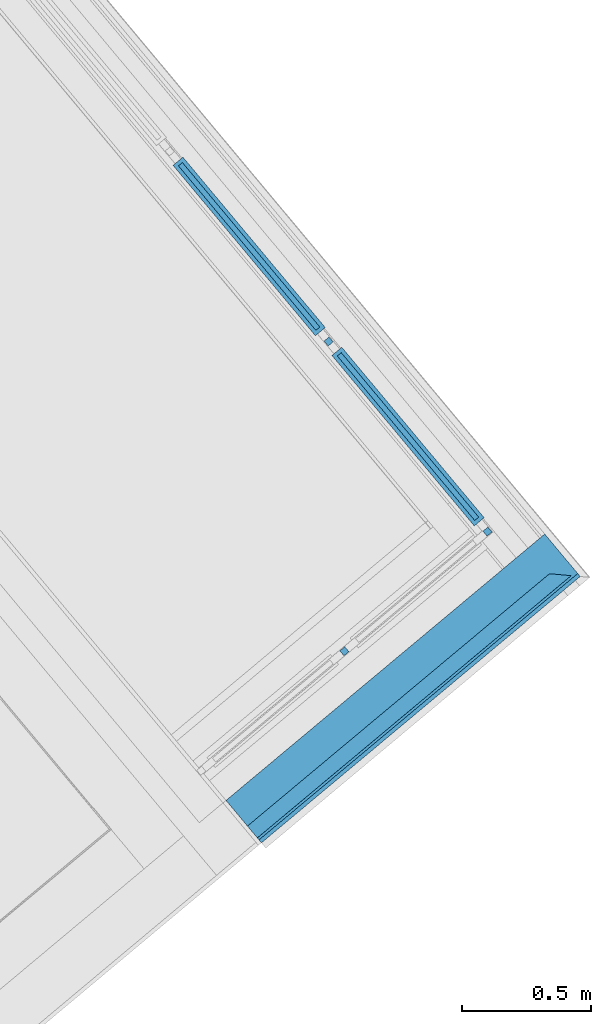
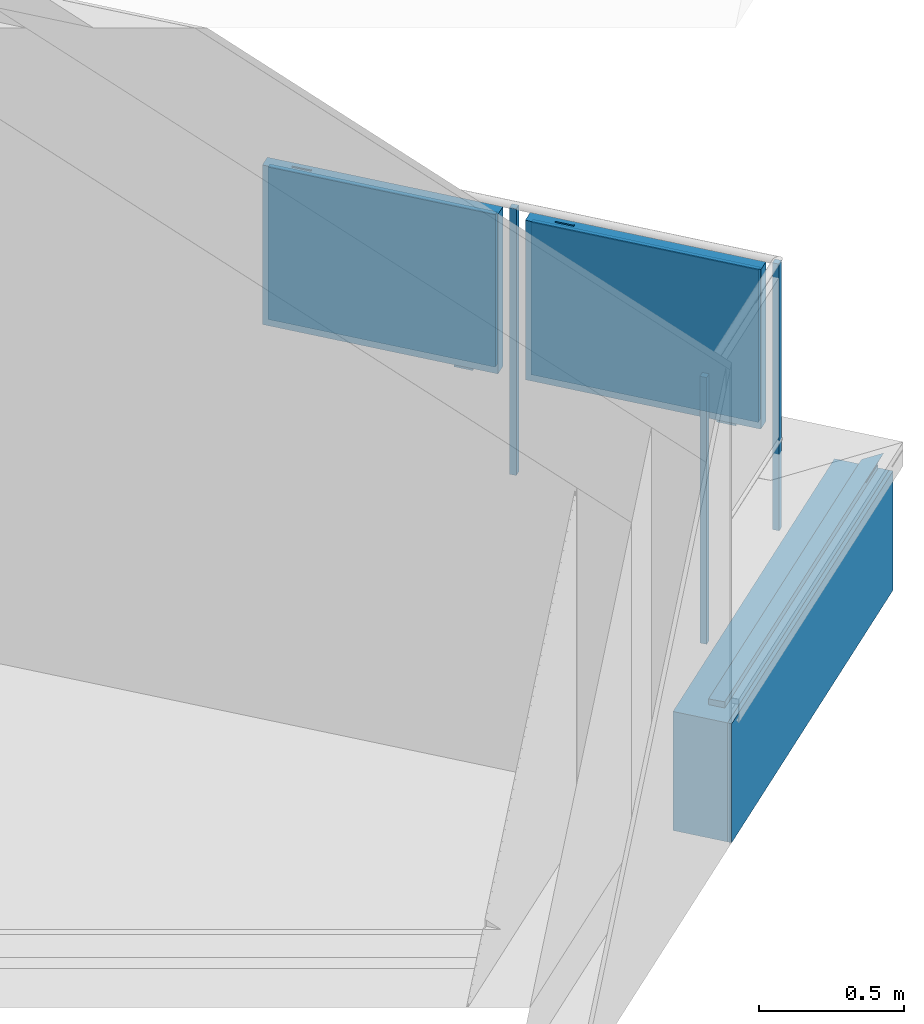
# One storey, part 31 of 53: 10 building element parts, 2 elements without a shape of their own.
"""IFC4 building model written with IfcOpenShell, lengths in metres."""

from ifc_helpers import new_model, entity, si_unit, converted_unit, derived_unit, direction, frame, origin_with_axes, place, context, subcontext, project, spatial, polygons, material, type_object, element, aggregate, save


model = new_model("IFC4")

# Units and contexts
model_context = context("Model", 3, precision=1e-05, world=origin_with_axes(), true_north=direction((0.0, 1.0)))
body_context = subcontext(model_context, "Body", "Model", "MODEL_VIEW")
ifc_project = project(units=[si_unit("LENGTHUNIT", "METRE"), si_unit("AREAUNIT", "SQUARE_METRE"), si_unit("VOLUMEUNIT", "CUBIC_METRE"), converted_unit("PLANEANGLEUNIT", "DEGREE", entity("IfcPlaneAngleMeasure", 0.0174532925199), si_unit("PLANEANGLEUNIT", "RADIAN"), dimensions=[0, 0, 0, 0, 0, 0, 0]), converted_unit("TIMEUNIT", "Year", entity("IfcTimeMeasure", 31556926.0), si_unit("TIMEUNIT", "SECOND"), dimensions=[0, 0, 1, 0, 0, 0, 0]), si_unit("MASSUNIT", "GRAM", prefix="KILO"), si_unit("THERMODYNAMICTEMPERATUREUNIT", "DEGREE_CELSIUS"), si_unit("LUMINOUSINTENSITYUNIT", "LUMEN"), si_unit("ENERGYUNIT", "JOULE", prefix="MEGA"), derived_unit("THERMALCONDUCTANCEUNIT", [(si_unit("POWERUNIT", "WATT"), 1), (si_unit("LENGTHUNIT", "METRE"), -1), (si_unit("THERMODYNAMICTEMPERATUREUNIT", "KELVIN"), -1)]), derived_unit("SPECIFICHEATCAPACITYUNIT", [(si_unit("ENERGYUNIT", "JOULE"), 1), (si_unit("MASSUNIT", "GRAM", prefix="KILO"), -1), (si_unit("THERMODYNAMICTEMPERATUREUNIT", "KELVIN"), -1)]), derived_unit("MASSDENSITYUNIT", [(si_unit("MASSUNIT", "GRAM", prefix="KILO"), 1), (si_unit("VOLUMEUNIT", "CUBIC_METRE"), -1)])], contexts=[model_context])

# Site, building, storey
site_placement = place(None, frame((-0.00153261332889, -0.00661245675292, 0.0), z_axis=(0.0, 0.0, 1.0), x_axis=(1.0, 0.0, 0.0)))
site = spatial("IfcSite", under=ifc_project, at=site_placement, Name="Gelände", CompositionType="ELEMENT")
building_placement = place(site_placement, origin_with_axes())
building = spatial("IfcBuilding", under=site, at=building_placement, Name="Gebäude", CompositionType="ELEMENT")
storey_placement = place(building_placement, frame((0.0, 0.0, 2.74), z_axis=(0.0, 0.0, 1.0), x_axis=(1.0, 0.0, 0.0)))
storey = spatial("IfcBuildingStorey", under=building, at=storey_placement, Name="OG1", CompositionType="ELEMENT", Elevation=2.74)

# Wall, building element parts
wall_type = type_object("IfcWallType", Name="Balkon Dämmung runter 574 x 610", PredefinedType="NOTDEFINED")
wall_placement = place(storey_placement, frame((14.3343917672, 21.3414540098, -0.2), z_axis=(0.0, 0.0, 1.0), x_axis=(-0.76736545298, -0.64120999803, 0.0)))
wall = element("IfcWall", 1, at=wall_placement, inside=storey, type_object=wall_type, Name="Wand-004", PredefinedType="NOTDEFINED")
ifc_material_1 = material(Name="Zementputz")
building_element_part_1_placement = place(wall_placement, origin_with_axes())
building_element_part_1 = element("IfcBuildingElementPart", 2, at=building_element_part_1_placement, material=ifc_material_1, Name="Zementputz", PredefinedType="NOTDEFINED", context=body_context, shape_type="Tessellation", body=[
    polygons([(-0.21499890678, 0.214999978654, 0.0), (-0.21499890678, 0.214999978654, 0.500000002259), (1.40011965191, 0.214999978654, 0.500000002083), (1.40011965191, 0.214999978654, 0.0), (-0.214998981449, 0.19999996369, 0.0), (-0.214998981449, 0.19999996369, 0.500000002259), (1.40011965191, 0.19999996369, 0.499999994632), (1.40011965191, 0.19999996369, 0.0)], [[[1, 2, 3, 4]], [[2, 1, 5, 6]], [[2, 6, 7, 3]], [[4, 3, 7, 8]], [[5, 1, 4, 8]], [[6, 5, 8, 7]]], closed=True),
])
ifc_material_2 = material(Name="Vollholz")
building_element_part_2_placement = place(wall_placement, origin_with_axes())
building_element_part_2 = element("IfcBuildingElementPart", 3, at=building_element_part_2_placement, material=ifc_material_2, Name="Vollholz", PredefinedType="NOTDEFINED", context=body_context, shape_type="Tessellation", body=[
    polygons([(-0.130124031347, 0.189996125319, 0.584015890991), (-0.189983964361, 0.189984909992, 0.586106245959), (1.40011965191, 0.189984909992, 0.586106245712), (1.40011965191, 0.190124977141, 0.560000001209), (-0.130124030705, 0.190124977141, 0.560000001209), (-0.130124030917, 0.19008233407, 0.567947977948), (-0.130124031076, 0.190050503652, 0.573880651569), (-0.130124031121, 0.190041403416, 0.575576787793), (-0.130124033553, 0.190039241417, 0.575979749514), (-0.070141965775, 0.190039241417, 0.575979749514), (-0.0100531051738, 0.190039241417, 0.575979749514), (-0.0100317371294, 0.190018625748, 0.579822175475), (-0.0701419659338, 0.190007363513, 0.581921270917), (-0.130124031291, 0.190007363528, 0.581921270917), (-0.130124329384, 0.130124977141, 0.584015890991), (1.40011965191, 0.130124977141, 0.584015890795), (1.40011965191, 0.130124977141, 0.560000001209), (-0.130124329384, 0.130124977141, 0.560000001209), (-0.130124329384, 0.130124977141, 0.567947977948), (-0.130124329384, 0.130124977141, 0.573880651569), (-0.130124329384, 0.130124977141, 0.575576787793), (-0.130124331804, 0.130124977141, 0.575979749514), (-0.0701422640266, 0.130124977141, 0.575979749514), (-0.0100534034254, 0.130124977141, 0.575979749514), (-0.0100320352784, 0.130124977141, 0.579822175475), (-0.0701422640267, 0.130124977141, 0.581921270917), (-0.130124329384, 0.130124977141, 0.581921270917)], [[[1, 2, 3, 4, 5, 6, 7, 8, 9, 10, 11, 12, 13, 14]], [[15, 2, 1]], [[2, 15, 16, 3]], [[3, 16, 17, 4]], [[17, 18, 5, 4]], [[5, 18, 19, 6]], [[7, 6, 19, 20]], [[21, 8, 7, 20]], [[22, 9, 8, 21]], [[10, 9, 22, 23]], [[10, 23, 24, 11]], [[11, 24, 25, 12]], [[12, 25, 26, 13]], [[14, 13, 26, 27]], [[15, 1, 14, 27]], [[18, 17, 16, 15, 27, 26, 25, 24, 23, 22, 21, 20, 19]]], closed=True),
])
ifc_material_3 = material(Name="EPS 1")
building_element_part_3_placement = place(wall_placement, origin_with_axes())
building_element_part_3 = element("IfcBuildingElementPart", 4, at=building_element_part_3_placement, material=ifc_material_3, Name="EPS 1", PredefinedType="NOTDEFINED", context=body_context, shape_type="Tessellation", body=[
    polygons([(-0.214998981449, 0.19999996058, 0.0), (-0.214998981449, 0.19999996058, 0.500000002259), (1.40011965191, 0.19999996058, 0.499999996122), (1.40011965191, 0.19999996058, 0.0), (-0.214999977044, 2.90217450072e-09, 0.0), (-0.214999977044, 2.73518807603e-09, 0.200000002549), (-0.214999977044, 2.90217627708e-09, 0.500000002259), (1.40011965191, 2.90217450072e-09, 0.500000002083), (1.40011965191, 2.90217450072e-09, 0.0), (1.40011965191, 2.73518807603e-09, 0.200000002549)], [[[1, 2, 3, 4]], [[2, 1, 5, 6, 7]], [[2, 7, 8, 3]], [[9, 4, 3, 8, 10]], [[5, 1, 4, 9]], [[6, 5, 9, 10]], [[7, 6, 10, 8]]], closed=True),
])
aggregate(wall, [building_element_part_1, building_element_part_2, building_element_part_3])

# Space
space_placement = place(storey_placement, frame((9.48027034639, 24.9670510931, 0.22), z_axis=(0.0, 0.0, 1.0), x_axis=(0.641209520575, -0.76736585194, 0.0)))
space = spatial("IfcSpace", under=storey, at=space_placement, CompositionType="ELEMENT", PredefinedType="NOTDEFINED")

# Railing, building element parts
railing_type = type_object("IfcRailingType", Name="Geländerart", PredefinedType="NOTDEFINED")
railing_placement = place(space_placement, frame((5.69466912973, 0.0, 0.16), z_axis=(0.0, 0.0, 1.0), x_axis=(0.641209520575, 0.76736585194, 0.0)))
railing = element("IfcRailing", 5, at=railing_placement, inside=space, type_object=railing_type, Name="Geländer - 001", PredefinedType="NOTDEFINED")
ifc_material_4 = material(Name="Aluminium")
building_element_part_4_placement = place(railing_placement, origin_with_axes())
building_element_part_4 = element("IfcBuildingElementPart", 6, at=building_element_part_4_placement, material=ifc_material_4, Name="Aluminium", PredefinedType="NOTDEFINED", context=body_context, shape_type="Tessellation", body=[
    polygons([(1.16243985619, 0.889886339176, -0.3), (1.14640960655, 0.909070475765, -0.3), (1.14640960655, 0.909070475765, 0.82), (1.16243985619, 0.889886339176, 0.82), (1.1432557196, 0.873856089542, -0.3), (1.12722546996, 0.893040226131, -0.3), (1.12722546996, 0.893040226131, 0.82), (1.1432557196, 0.873856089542, 0.82)], [[[1, 2, 3, 4]], [[1, 5, 6, 2]], [[2, 6, 7, 3]], [[4, 3, 7, 8]], [[5, 1, 4, 8]], [[6, 5, 8, 7]]], closed=True),
])
building_element_part_5_placement = place(railing_placement, origin_with_axes())
building_element_part_5 = element("IfcBuildingElementPart", 7, at=building_element_part_5_placement, material=ifc_material_4, Name="Aluminium", PredefinedType="NOTDEFINED", context=body_context, shape_type="Tessellation", body=[
    polygons([(0.606053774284, 0.42497056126, -0.3), (0.59002352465, 0.444154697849, -0.3), (0.59002352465, 0.444154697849, 0.82), (0.606053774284, 0.42497056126, 0.82), (0.586869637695, 0.408940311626, -0.3), (0.570839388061, 0.428124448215, -0.3), (0.570839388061, 0.428124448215, 0.82), (0.586869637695, 0.408940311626, 0.82)], [[[1, 2, 3, 4]], [[1, 5, 6, 2]], [[2, 6, 7, 3]], [[4, 3, 7, 8]], [[5, 1, 4, 8]], [[6, 5, 8, 7]]], closed=True),
])
ifc_material_5 = material(Name="Profilit")
building_element_part_6_placement = place(railing_placement, origin_with_axes())
building_element_part_6 = element("IfcBuildingElementPart", 8, at=building_element_part_6_placement, material=ifc_material_5, Name="Profilit", PredefinedType="NOTDEFINED", context=body_context, shape_type="Tessellation", body=[
    polygons([(0.561177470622, 1.57436173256, 0.135), (1.09548057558, 0.934930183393, 0.135), (1.09548057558, 0.934930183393, 0.775), (0.561177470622, 1.57436173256, 0.775), (1.11082794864, 0.947754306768, 0.135), (0.576524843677, 1.58718585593, 0.135), (1.11082794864, 0.947754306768, 0.775), (0.576524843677, 1.58718585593, 0.775)], [[[1, 2, 3, 4]], [[5, 2, 1, 6]], [[7, 3, 2, 5]], [[4, 3, 7, 8]], [[1, 4, 8, 6]], [[7, 5, 6, 8]]], closed=True),
])
building_element_part_7_placement = place(railing_placement, origin_with_axes())
building_element_part_7 = element("IfcBuildingElementPart", 9, at=building_element_part_7_placement, material=ifc_material_4, Name="Aluminium", PredefinedType="NOTDEFINED", context=body_context, shape_type="Tessellation", body=[
    polygons([(1.04673331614, 1.00496556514, 0.12), (1.00184888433, 1.05868137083, 0.12), (1.00184888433, 1.05868137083, 0.095), (1.04673331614, 1.00496556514, 0.095), (1.0505701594, 1.00817159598, 0.12), (1.00568572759, 1.06188740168, 0.12), (1.00568572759, 1.06188740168, 0.095), (1.0505701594, 1.00817159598, 0.095)], [[[1, 2, 3, 4]], [[5, 6, 2, 1]], [[2, 6, 7, 3]], [[4, 3, 7, 8]], [[1, 4, 8, 5]], [[8, 7, 6, 5]]], closed=True),
    polygons([(0.621435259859, 1.51394444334, 0.79), (0.66631969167, 1.46022863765, 0.79), (0.66631969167, 1.46022863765, 0.795), (0.621435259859, 1.51394444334, 0.795), (0.625272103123, 1.51715047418, 0.79), (0.670156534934, 1.46343466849, 0.79), (0.670156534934, 1.46343466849, 0.795), (0.625272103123, 1.51715047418, 0.795)], [[[1, 2, 3, 4]], [[5, 6, 2, 1]], [[2, 6, 7, 3]], [[4, 3, 7, 8]], [[1, 4, 8, 5]], [[8, 7, 6, 5]]], closed=True),
    polygons([(1.13195657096, 0.945861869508, 0.12), (1.09358813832, 0.913801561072, 0.12), (0.5400488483, 1.57625416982, 0.12), (0.578417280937, 1.60831447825, 0.12), (1.11913244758, 0.961209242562, 0.14), (1.10762191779, 0.951591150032, 0.14), (1.11082794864, 0.947754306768, 0.135), (1.09548057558, 0.934930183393, 0.135), (1.09227454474, 0.938767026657, 0.14), (1.08076401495, 0.929148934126, 0.14), (0.552872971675, 1.56090679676, 0.14), (0.552872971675, 1.56090679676, 0.77), (1.08076401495, 0.929148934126, 0.77), (1.08076401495, 0.929148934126, 0.14), (1.09358813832, 0.913801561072, 0.12), (1.09358813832, 0.913801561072, 0.79), (0.5400488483, 1.57625416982, 0.79), (0.578417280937, 1.60831447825, 0.79), (1.13195657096, 0.945861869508, 0.79), (1.13195657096, 0.945861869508, 0.12), (1.11913244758, 0.961209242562, 0.14), (1.11913244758, 0.961209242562, 0.77), (0.591241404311, 1.5929671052, 0.77), (0.591241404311, 1.5929671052, 0.14), (0.57973087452, 1.58334901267, 0.14), (0.57973087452, 1.58334901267, 0.77), (1.10762191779, 0.951591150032, 0.77), (1.10762191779, 0.951591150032, 0.14), (1.11082794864, 0.947754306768, 0.135), (1.11082794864, 0.947754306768, 0.775), (0.576524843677, 1.58718585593, 0.775), (0.576524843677, 1.58718585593, 0.135), (0.561177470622, 1.57436173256, 0.135), (0.561177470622, 1.57436173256, 0.775), (1.09548057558, 0.934930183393, 0.775), (1.09548057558, 0.934930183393, 0.135), (1.09227454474, 0.938767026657, 0.14), (1.09227454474, 0.938767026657, 0.77), (0.564383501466, 1.57052488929, 0.77), (0.564383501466, 1.57052488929, 0.14)], [[[1, 2, 3, 4]], [[1, 5, 6, 7, 8, 9, 10, 2]], [[2, 10, 11, 12, 13, 14, 15, 16, 17, 3]], [[4, 3, 17, 18]], [[5, 1, 4, 18, 19, 20, 21, 22, 23, 24]], [[6, 5, 24, 25]], [[7, 6, 25, 26, 27, 28, 29, 30, 31, 32]], [[8, 7, 32, 33]], [[9, 8, 33, 34, 35, 36, 37, 38, 39, 40]], [[10, 9, 40, 11]], [[11, 40, 39, 12]], [[12, 39, 38, 13]], [[13, 38, 37, 14]], [[20, 15, 14, 37, 36, 29, 28, 21]], [[19, 16, 15, 20]], [[18, 17, 16, 19]], [[27, 22, 21, 28]], [[26, 23, 22, 27]], [[25, 24, 23, 26]], [[35, 30, 29, 36]], [[34, 31, 30, 35]], [[33, 32, 31, 34]]], closed=True),
])
building_element_part_8_placement = place(railing_placement, origin_with_axes())
building_element_part_8 = element("IfcBuildingElementPart", 10, at=building_element_part_8_placement, material=ifc_material_4, Name="Aluminium", PredefinedType="NOTDEFINED", context=body_context, shape_type="Tessellation", body=[
    polygons([(0.528749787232, 1.64825994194, -0.3), (0.509565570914, 1.63222978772, -0.3), (0.509565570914, 1.63222978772, 0.82), (0.528749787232, 1.64825994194, 0.82), (0.544779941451, 1.62907572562, -0.3), (0.525595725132, 1.6130455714, -0.3), (0.525595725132, 1.6130455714, 0.82), (0.544779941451, 1.62907572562, 0.82)], [[[1, 2, 3, 4]], [[1, 5, 6, 2]], [[2, 6, 7, 3]], [[4, 3, 7, 8]], [[5, 1, 4, 8]], [[6, 5, 8, 7]]], closed=True),
])
building_element_part_9_placement = place(railing_placement, origin_with_axes())
building_element_part_9 = element("IfcBuildingElementPart", 11, at=building_element_part_9_placement, material=ifc_material_5, Name="Profilit", PredefinedType="NOTDEFINED", context=body_context, shape_type="Tessellation", body=[
    polygons([(-0.0564824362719, 2.31355120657, 0.135), (0.477820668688, 1.67411965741, 0.135), (0.477820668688, 1.67411965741, 0.775), (-0.0564824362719, 2.31355120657, 0.775), (0.493168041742, 1.68694378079, 0.135), (-0.0411350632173, 2.32637532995, 0.135), (0.493168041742, 1.68694378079, 0.775), (-0.0411350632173, 2.32637532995, 0.775)], [[[1, 2, 3, 4]], [[5, 2, 1, 6]], [[7, 3, 2, 5]], [[4, 3, 7, 8]], [[1, 4, 8, 6]], [[7, 5, 6, 8]]], closed=True),
])
building_element_part_10_placement = place(railing_placement, origin_with_axes())
building_element_part_10 = element("IfcBuildingElementPart", 12, at=building_element_part_10_placement, material=ifc_material_4, Name="Aluminium", PredefinedType="NOTDEFINED", context=body_context, shape_type="Tessellation", body=[
    polygons([(0.429073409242, 1.74415503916, 0.12), (0.384188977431, 1.79787084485, 0.12), (0.384188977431, 1.79787084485, 0.095), (0.429073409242, 1.74415503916, 0.095), (0.432910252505, 1.74736107, 0.12), (0.388025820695, 1.80107687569, 0.12), (0.388025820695, 1.80107687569, 0.095), (0.432910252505, 1.74736107, 0.095)], [[[1, 2, 3, 4]], [[5, 6, 2, 1]], [[2, 6, 7, 3]], [[4, 3, 7, 8]], [[1, 4, 8, 5]], [[8, 7, 6, 5]]], closed=True),
    polygons([(0.00377535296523, 2.25313391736, 0.79), (0.048659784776, 2.19941811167, 0.79), (0.048659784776, 2.19941811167, 0.795), (0.00377535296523, 2.25313391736, 0.795), (0.00761219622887, 2.2563399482, 0.79), (0.0524966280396, 2.20262414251, 0.79), (0.0524966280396, 2.20262414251, 0.795), (0.00761219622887, 2.2563399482, 0.795)], [[[1, 2, 3, 4]], [[5, 6, 2, 1]], [[2, 6, 7, 3]], [[4, 3, 7, 8]], [[1, 4, 8, 5]], [[8, 7, 6, 5]]], closed=True),
    polygons([(0.514296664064, 1.68505134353, 0.12), (0.475928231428, 1.65299103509, 0.12), (-0.0776110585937, 2.31544364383, 0.12), (-0.0392426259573, 2.34750395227, 0.12), (0.50147254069, 1.70039871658, 0.14), (0.489962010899, 1.69078062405, 0.14), (0.493168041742, 1.68694378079, 0.135), (0.477820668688, 1.67411965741, 0.135), (0.474614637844, 1.67795650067, 0.14), (0.463104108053, 1.66833840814, 0.14), (-0.0647869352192, 2.30009627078, 0.14), (-0.0647869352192, 2.30009627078, 0.77), (0.463104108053, 1.66833840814, 0.77), (0.463104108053, 1.66833840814, 0.14), (0.475928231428, 1.65299103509, 0.12), (0.475928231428, 1.65299103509, 0.79), (-0.0776110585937, 2.31544364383, 0.79), (-0.0392426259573, 2.34750395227, 0.79), (0.514296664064, 1.68505134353, 0.79), (0.514296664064, 1.68505134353, 0.12), (0.50147254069, 1.70039871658, 0.14), (0.50147254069, 1.70039871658, 0.77), (-0.0264185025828, 2.33215657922, 0.77), (-0.0264185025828, 2.33215657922, 0.14), (-0.0379290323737, 2.32253848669, 0.14), (-0.0379290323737, 2.32253848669, 0.77), (0.489962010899, 1.69078062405, 0.77), (0.489962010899, 1.69078062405, 0.14), (0.493168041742, 1.68694378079, 0.135), (0.493168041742, 1.68694378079, 0.775), (-0.0411350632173, 2.32637532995, 0.775), (-0.0411350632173, 2.32637532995, 0.135), (-0.0564824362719, 2.31355120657, 0.135), (-0.0564824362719, 2.31355120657, 0.775), (0.477820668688, 1.67411965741, 0.775), (0.477820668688, 1.67411965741, 0.135), (0.474614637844, 1.67795650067, 0.14), (0.474614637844, 1.67795650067, 0.77), (-0.0532764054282, 2.30971436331, 0.77), (-0.0532764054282, 2.30971436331, 0.14)], [[[1, 2, 3, 4]], [[1, 5, 6, 7, 8, 9, 10, 2]], [[2, 10, 11, 12, 13, 14, 15, 16, 17, 3]], [[4, 3, 17, 18]], [[5, 1, 4, 18, 19, 20, 21, 22, 23, 24]], [[6, 5, 24, 25]], [[7, 6, 25, 26, 27, 28, 29, 30, 31, 32]], [[8, 7, 32, 33]], [[9, 8, 33, 34, 35, 36, 37, 38, 39, 40]], [[10, 9, 40, 11]], [[11, 40, 39, 12]], [[12, 39, 38, 13]], [[13, 38, 37, 14]], [[20, 15, 14, 37, 36, 29, 28, 21]], [[19, 16, 15, 20]], [[18, 17, 16, 19]], [[27, 22, 21, 28]], [[26, 23, 22, 27]], [[25, 24, 23, 26]], [[35, 30, 29, 36]], [[34, 31, 30, 35]], [[33, 32, 31, 34]]], closed=True),
])
aggregate(railing, [building_element_part_4, building_element_part_5, building_element_part_6, building_element_part_7, building_element_part_8, building_element_part_9, building_element_part_10])

save(model, "model.ifc")
